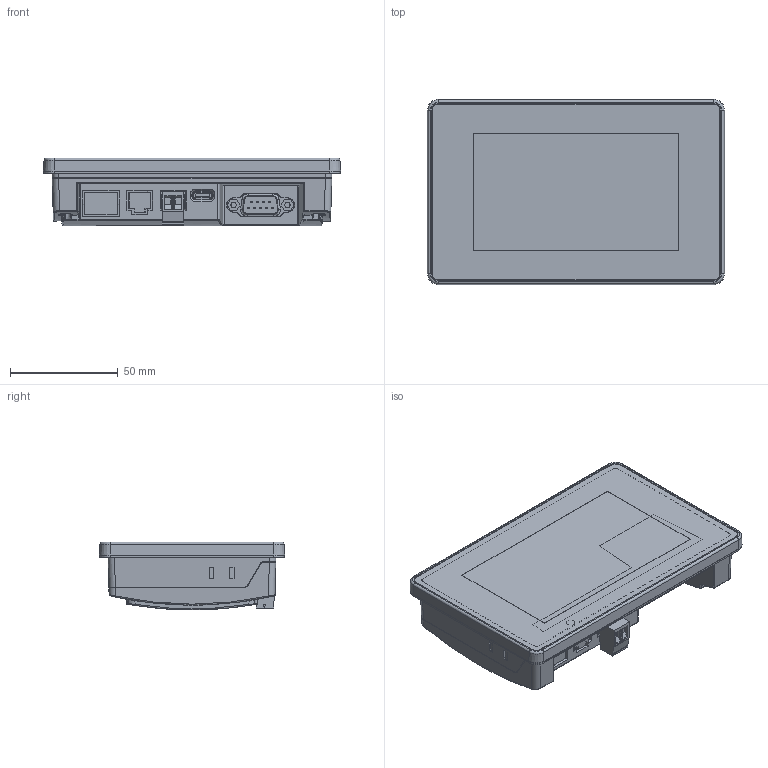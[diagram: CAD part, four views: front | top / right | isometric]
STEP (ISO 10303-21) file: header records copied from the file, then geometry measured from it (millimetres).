
FILE_DESCRIPTION((''),'2;1');
FILE_NAME('RTP043E','2026-07-07T09:42:48',('weixf_pc'),(''),'CREO PARAMETRIC BY PTC INC, 2016510','CREO PARAMETRIC BY PTC INC, 2016510','');
FILE_SCHEMA(('CONFIG_CONTROL_DESIGN'));
Length unit declared in the file: millimetre
Products named in the file (1): RTP043E
Bounding box: 138 x 86 x 31.5 mm (x, y, z)
Volume: 245413.8 mm3; surface area: 66317 mm2
Topology: 1 solids, 3 shells, 963 faces, 2652 edges, 1711 vertices
Faces by surface type: plane 584, cylinder 178, cone 79, bspline 78, torus 24, sphere 12, extrusion 8
Entity records: 33900 total; most frequent: CARTESIAN_POINT 10152, ORIENTED_EDGE 5282, DIRECTION 4408, EDGE_CURVE 2641, VECTOR 1746, LINE 1738, VERTEX_POINT 1711, AXIS2_PLACEMENT_3D 1331
